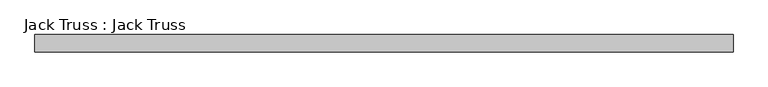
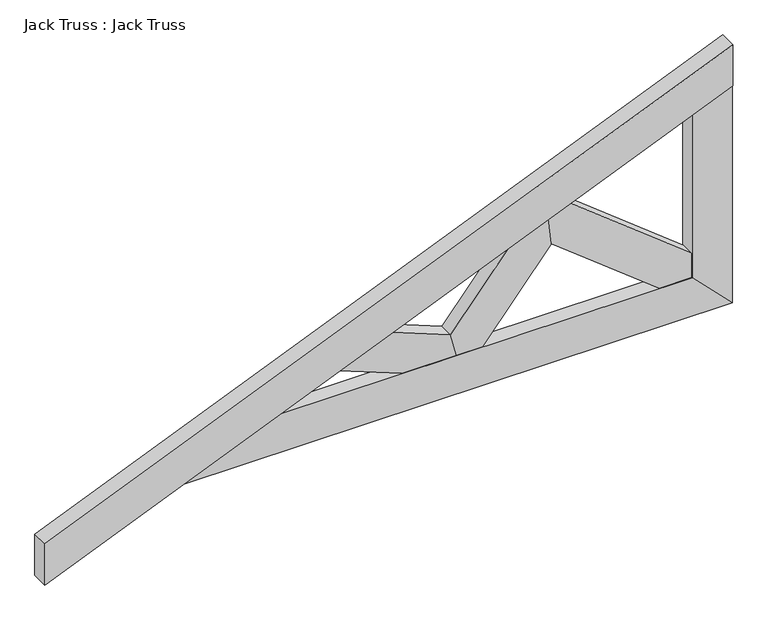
"""IFC4 building model written with IfcOpenShell, lengths in millimetres: beam geometry, Jack Truss : Jack Truss."""

from ifc_helpers import new_model, si_unit, origin, place, context, project, spatial, faceted_brep, source, transform, mapped, element, save


def jack_truss_jack_truss_8892ba72(model_context):
    return source(origin(), model_context, "Body", "Brep", [
        faceted_brep([(2006.7131629, -192.268471, 276.6952171), (2245.4358965, -192.268471, 88.9), (2317.328395, -192.268471, 88.9), (2317.328395, -192.268471, 145.4554321), (2046.827369, -192.268471, 358.2495725), (1999.828395, -192.268471, 338.6666667), (2006.7131629, -160.518471, 276.6952171), (2245.4358965, -160.518471, 88.9), (1999.828395, -160.518471, 338.6666667), (2046.827369, -160.518471, 358.2495725), (2317.328395, -160.518471, 145.4554321), (2317.328395, -160.518471, 88.9), (1782.7032645, -192.268471, 142.2176706), (1796.628395, -192.268471, 88.9), (1853.9306133, -192.268471, 88.9), (1913.1404236, -192.268471, 302.5466786), (1853.9306133, -160.518471, 88.9), (1796.628395, -160.518471, 88.9), (1782.7032645, -160.518471, 142.2176706), (1913.1404236, -160.518471, 302.5466786), (1652.2661054, -192.268471, 193.849046), (1534.5906845, -192.268471, 144.8176206), (1675.8562524, -192.268471, 88.9), (1675.8562524, -160.518471, 88.9), (1534.5906845, -160.518471, 144.8176206), (1652.2661054, -160.518471, 193.849046), (2317.328395, -193.855971, 88.9), (2317.328395, -158.930971, 88.9), (1400.388395, -158.930971, 88.9), (1400.388395, -193.855971, 88.9), (2406.228395, -158.930971, 0.0), (1187.028395, -158.930971, 0.0), (2406.228395, -193.855971, 0.0), (1187.028395, -193.855971, 0.0), (2317.328395, -193.855971, 470.9583333), (2317.328395, -158.930971, 470.9583333), (2406.228395, -158.930971, 508.0), (2406.228395, -157.343471, 508.0), (2406.228395, -157.343471, 604.3083333), (2406.228395, -195.443471, 604.3083333), (2406.228395, -195.443471, 508.0), (2406.228395, -193.855971, 508.0), (882.228395, -195.443471, -127.0), (882.228395, -195.443471, -30.6916667), (882.228395, -157.343471, -127.0), (882.228395, -157.343471, -30.6916667)], [[[0, 1, 2, 3, 4, 5]], [[0, 6, 7, 1]], [[7, 6, 8, 9, 10, 11]], [[3, 10, 9, 4]], [[12, 13, 14, 0, 5, 15]], [[6, 0, 14, 16]], [[6, 16, 17, 18, 19, 8]], [[18, 12, 15, 19]], [[13, 12, 20, 21, 22]], [[23, 22, 21, 24]], [[18, 17, 23, 24, 25]], [[12, 18, 25, 20]], [[26, 2, 1, 7, 11, 27, 28, 29], [14, 13, 22, 23, 17, 16]], [[27, 30, 31, 28]], [[31, 30, 32, 33]], [[33, 32, 26, 29]], [[2, 26, 34, 35, 27, 11, 10, 3]], [[30, 27, 35, 36]], [[32, 30, 36, 37, 38, 39, 40, 41]], [[26, 32, 41, 34]], [[42, 40, 39, 43]], [[44, 45, 38, 37]], [[40, 42, 44, 37, 36, 35, 34, 41], [5, 4, 9, 8, 19, 15], [21, 20, 25, 24], [29, 28, 31, 33]], [[43, 39, 38, 45]], [[42, 43, 45, 44]]]),
    ])


if __name__ == "__main__":
    model = new_model("IFC4")
    model_context = context("Model", 3, world=origin())
    ifc_project = project(units=[si_unit("LENGTHUNIT", "METRE", prefix="MILLI")], contexts=[model_context])
    site = spatial("IfcSite", under=ifc_project)
    building = spatial("IfcBuilding", under=site)
    placement = place(None, origin())
    jack_truss_jack_truss_shape = jack_truss_jack_truss_8892ba72(model_context)
    element("IfcBeam", 1, ObjectType="Jack Truss : Jack Truss", at=placement, inside=building, context=model_context, shape_type="MappedRepresentation", body=[
        mapped(jack_truss_jack_truss_shape, transform((0.0, 0.0, 0.0), x_axis=(1.0, 0.0, 0.0), y_axis=(0.0, 1.0, 0.0), z_axis=(0.0, 0.0, 1.0))),
    ])
    save(model, "model.ifc")
